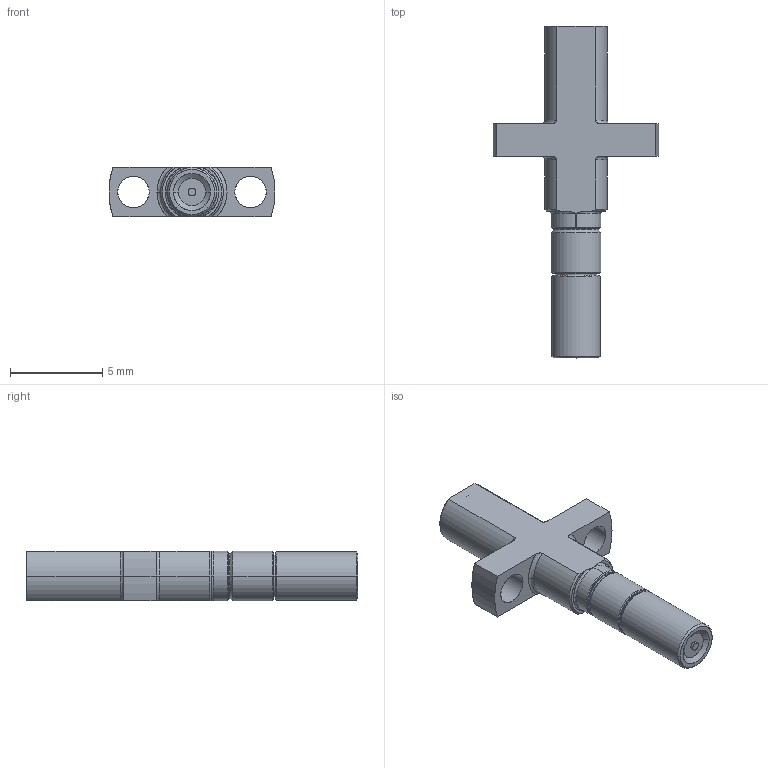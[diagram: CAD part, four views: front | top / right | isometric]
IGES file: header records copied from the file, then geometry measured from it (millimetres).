
Start section: SolidWorks IGES file using analytic representation for surfaces
Global section: file name: C:\3dwork\watanabe\20230123_WEB—pTOOL\91136\SW\MHF 7 RECEPTACLE HIGH CYCLE N30 SMPM ADAPTER IGES R0 ALL.IGS; native system: SolidWorks 2020; preprocessor: SolidWorks 2020; author: E1480; date: 230308.152638; units: millimetre
Bounding box: 9 x 18 x 2.7 mm (x, y, z)
Surface area: 260.1 mm2 (no closed solid volume)
Topology: 0 solids, 0 shells, 77 faces, 939 edges, 939 vertices
Faces by surface type: revolution 49, bspline 28
